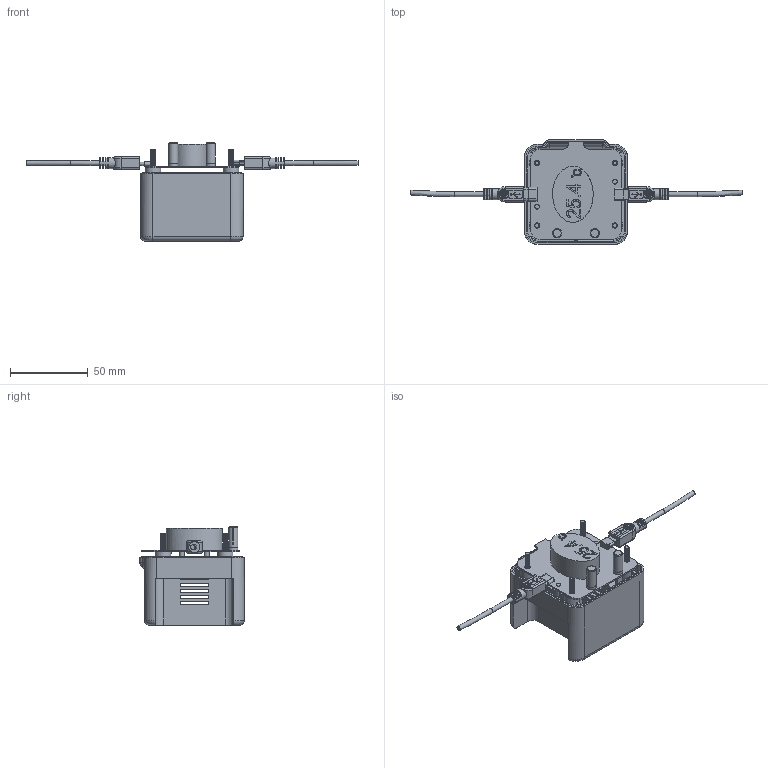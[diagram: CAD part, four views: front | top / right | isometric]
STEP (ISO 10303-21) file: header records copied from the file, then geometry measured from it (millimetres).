
FILE_DESCRIPTION(/* description */ (''),/* implementation_level */ '2;1');
FILE_NAME(/* name */ '9.stp',/* time_stamp */ '2017-05-17T22:37:01+08:00',/* author */ (''),/* organization */ (''),/* preprocessor_version */ 'ST-DEVELOPER v15',/* originating_system */ 'SIEMENS PLM Software NX 8.5',/* authorisation */ '');
FILE_SCHEMA (('AUTOMOTIVE_DESIGN { 1 0 10303 214 3 1 1 1 }'));
Products named in the file (1): Admi09DC7885345d
Bounding box: 213 x 67 x 63.01 mm (x, y, z)
Volume: 56364.3 mm3; surface area: 56604.1 mm2
Topology: 13 solids, 13 shells, 813 faces, 2128 edges, 1407 vertices
Faces by surface type: plane 511, cylinder 222, torus 26, extrusion 25, bspline 21, sphere 4, cone 4
Full cylindrical faces by diameter (mm): 1.024 x1, 3 x6, 3.4 x8, 4 x4, 6 x4, 6.6 x4, 7 x6, 10.059 x4
Entity records: 60093 total; most frequent: CARTESIAN_POINT 39538, ORIENTED_EDGE 4066, DIRECTION 4022, EDGE_CURVE 2033, AXIS2_PLACEMENT_3D 1402, VERTEX_POINT 1364, VECTOR 1218, LINE 1193
